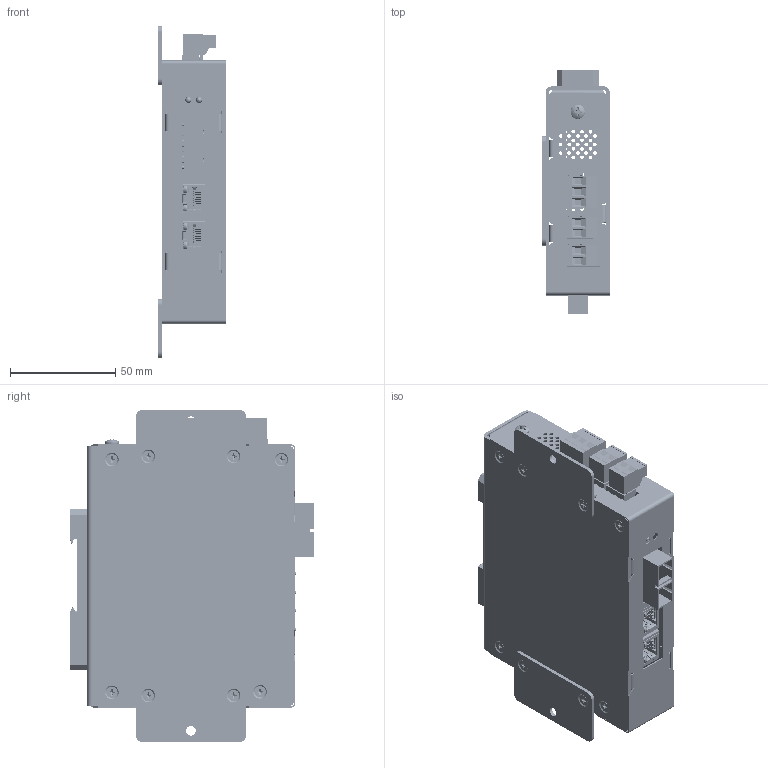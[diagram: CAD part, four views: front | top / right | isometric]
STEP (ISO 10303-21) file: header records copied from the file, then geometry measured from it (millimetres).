
FILE_DESCRIPTION(/* description */ ('STEP AP242','CAx-IF Rec.Pracs.---Representation and Presentation of Product Manufacturing Information (PMI)---4.0---2014-10-13','CAx-IF Rec.Pracs.---3D Tessellated Geometry---0.4---2014-09-14','2;1'),/* implementation_level */ '2;1');
FILE_NAME(/* name */ '618dbabf846b426cb82992c3',/* time_stamp */ '2021-11-12T00:52:20+00:00',/* author */ (''),/* organization */ (''),/* preprocessor_version */ 'ST-DEVELOPER v18.1',/* originating_system */ ' ',/* authorisation */ ' ');
FILE_SCHEMA (('AP242_MANAGED_MODEL_BASED_3D_ENGINEERING_MIM_LF { 1 0 10303 442 1 1 4 }'));
Products named in the file (36): CD-400 - 4D-2EM-XX-1-Wall - Rev A; 96640A334_Black-Oxide 18-8 Stainless Steel Phillips Flat Head Screws; SMTSO-440-8ET-PennEngineering-3D-09-30-2021; 91772A144_Passivated 18-8 Stainless Steel Pan Head Phillips Screw; 96640A115_Black-Oxide 18-8 Stainless Steel Phillips Flat Head Screws; Part 1; DINM12-RC-Assy <1>; Spring clip; spring^DINM12-RC-Assy; DINM12-RC; 4D-2EM-XX-1 Front Cover <1>; PRODUCT_NAME_1; H-105 Rear Housing <1>; 95185A130_Zinc-Plated Steel Press-Fit Nut for Sheet Metal; PCB-4D-2EM-IO-XX-1 <1>; C-796634-2; C-796638-2; C-796634-3; C-796638-3; M-RJHSE-338X Amphenol RJ45 v4 <2>; Part 6; Plastic Housing; Part 7; Shield; PIN ARRAY; LEDs; M-RJHSE-338X Amphenol RJ45 v4 <1>
Assembly tree (84 placements, depth 4):
  CD-400 - 4D-2EM-XX-1-Wall - Rev A
    96640A334_Black-Oxide 18-8 Stainless Steel Phillips Flat Head Screws  x14
    SMTSO-440-8ET-PennEngineering-3D-09-30-2021  x4
    91772A144_Passivated 18-8 Stainless Steel Pan Head Phillips Screw
    96640A115_Black-Oxide 18-8 Stainless Steel Phillips Flat Head Screws  x3
    Part 1  x2
    DINM12-RC-Assy <1>
      Spring clip
      spring^DINM12-RC-Assy
      spring^DINM12-RC-Assy
      DINM12-RC
    4D-2EM-XX-1 Front Cover <1>
      Part 1
      PRODUCT_NAME_1  x10
      PRODUCT_NAME_1
    H-105 Rear Housing <1>
      Part 1
      95185A130_Zinc-Plated Steel Press-Fit Nut for Sheet Metal  x3
    PCB-4D-2EM-IO-XX-1 <1>
      C-796634-2  x2
      C-796638-2  x2
      Part 1
      Part 1  x4
      C-796634-3
      Part 1  x2
      C-796638-3
      Part 1
      M-RJHSE-338X Amphenol RJ45 v4 <2>
        Part 6  x2
        Plastic Housing  x2
        Part 7  x2
        Shield
        PIN ARRAY
        LEDs
        LEDs
      M-RJHSE-338X Amphenol RJ45 v4 <1>
        PIN ARRAY
        Plastic Housing  x2
        Part 6  x2
        Part 7  x2
        LEDs
        LEDs
        Shield
Bounding box: 32.1 x 116.3 x 157.99 mm (x, y, z)
Volume: 98181.1 mm3; surface area: 143115.8 mm2
Topology: 77 solids, 78 shells, 7702 faces, 22606 edges, 15058 vertices
Faces by surface type: plane 5642, cylinder 1610, cone 226, torus 101, sphere 65, bspline 58
Full cylindrical faces by diameter (mm): 0.45 x9, 0.5 x2, 0.9 x4, 1.3 x4, 1.494 x4, 1.8 x4, 1.905 x143, 2.156 x14, 2.647 x1, 2.845 x112, 2.9 x4, 3.251 x18, 3.505 x24, 3.556 x2, 4 x10, 4.089 x4, 4.191 x10, 4.216 x14, 4.572 x2, 4.724 x1, 4.75 x1, 4.763 x3, 4.826 x3, 4.889 x10, 5.41 x8, 5.563 x13, 5.588 x10, 6.401 x1, 6.858 x1, 7.112 x3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
Entity records: 110439 total; most frequent: CARTESIAN_POINT 26285, ORIENTED_EDGE 16850, DIRECTION 16163, EDGE_CURVE 8427, LINE 6233, VECTOR 6233, VERTEX_POINT 5707, AXIS2_PLACEMENT_3D 4965
